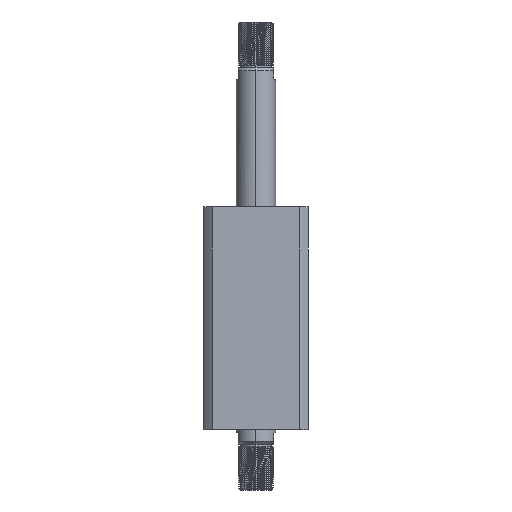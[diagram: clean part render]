
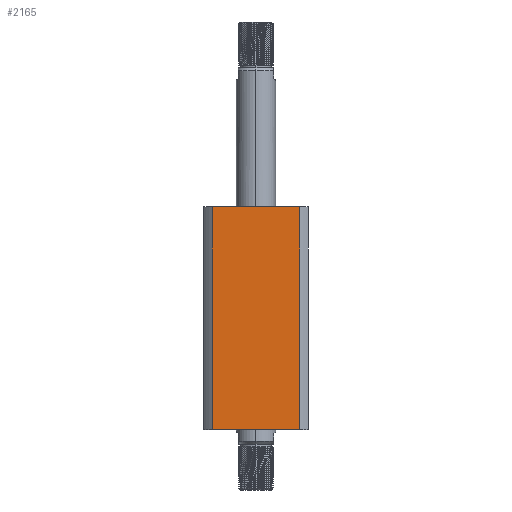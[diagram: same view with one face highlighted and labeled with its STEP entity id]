
A CAD part, left-side view. The second image highlights one B-rep face of the part: STEP entity #2165.
In plain terms, the highlighted planar face has unit normal (-1, 0, 0).
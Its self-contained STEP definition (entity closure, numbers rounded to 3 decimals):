
#85 = LINE ( 'NONE', #6426, #15433 ) ;
#693 = ORIENTED_EDGE ( 'NONE', *, *, #1624, .F. ) ;
#956 = LINE ( 'NONE', #9653, #13108 ) ;
#1276 = CARTESIAN_POINT ( 'NONE',  ( -40., 33.226, 85. ) ) ;
#1480 = DIRECTION ( 'NONE',  ( 0., -1., 0. ) ) ;
#1624 = EDGE_CURVE ( 'NONE', #15565, #1655, #956, .T. ) ;
#1655 = VERTEX_POINT ( 'NONE', #10900 ) ;
#2165 = ADVANCED_FACE ( 'NONE', ( #15650 ), #10709, .F. ) ;
#2438 = EDGE_LOOP ( 'NONE', ( #11654, #11942, #693, #9992 ) ) ;
#2476 = VERTEX_POINT ( 'NONE', #13246 ) ;
#2554 = DIRECTION ( 'NONE',  ( 1., 0., 0. ) ) ;
#4037 = CARTESIAN_POINT ( 'NONE',  ( -40., 33.226, -85. ) ) ;
#5259 = DIRECTION ( 'NONE',  ( 0., 1., 0. ) ) ;
#6426 = CARTESIAN_POINT ( 'NONE',  ( -40., -33.226, 85. ) ) ;
#6770 = DIRECTION ( 'NONE',  ( 0., -1., 0. ) ) ;
#7025 = CARTESIAN_POINT ( 'NONE',  ( -40., -33.226, -85. ) ) ;
#8800 = EDGE_CURVE ( 'NONE', #1655, #16479, #85, .T. ) ;
#9184 = LINE ( 'NONE', #4037, #10892 ) ;
#9653 = CARTESIAN_POINT ( 'NONE',  ( -40., 33.226, 85. ) ) ;
#9992 = ORIENTED_EDGE ( 'NONE', *, *, #10944, .T. ) ;
#10703 = AXIS2_PLACEMENT_3D ( 'NONE', #11002, #2554, #5259 ) ;
#10709 = PLANE ( 'NONE',  #10703 ) ;
#10892 = VECTOR ( 'NONE', #6770, 1000. ) ;
#10900 = CARTESIAN_POINT ( 'NONE',  ( -40., -33.226, 85. ) ) ;
#10944 = EDGE_CURVE ( 'NONE', #15565, #2476, #13651, .T. ) ;
#11002 = CARTESIAN_POINT ( 'NONE',  ( -40., 33.226, 85. ) ) ;
#11521 = EDGE_CURVE ( 'NONE', #2476, #16479, #9184, .T. ) ;
#11654 = ORIENTED_EDGE ( 'NONE', *, *, #11521, .T. ) ;
#11942 = ORIENTED_EDGE ( 'NONE', *, *, #8800, .F. ) ;
#12828 = VECTOR ( 'NONE', #15334, 1000. ) ;
#13108 = VECTOR ( 'NONE', #1480, 1000. ) ;
#13246 = CARTESIAN_POINT ( 'NONE',  ( -40., 33.226, -85. ) ) ;
#13651 = LINE ( 'NONE', #1276, #12828 ) ;
#15334 = DIRECTION ( 'NONE',  ( 0., 0., -1. ) ) ;
#15433 = VECTOR ( 'NONE', #15924, 1000. ) ;
#15565 = VERTEX_POINT ( 'NONE', #16260 ) ;
#15650 = FACE_OUTER_BOUND ( 'NONE', #2438, .T. ) ;
#15924 = DIRECTION ( 'NONE',  ( 0., 0., -1. ) ) ;
#16260 = CARTESIAN_POINT ( 'NONE',  ( -40., 33.226, 85. ) ) ;
#16479 = VERTEX_POINT ( 'NONE', #7025 ) ;
